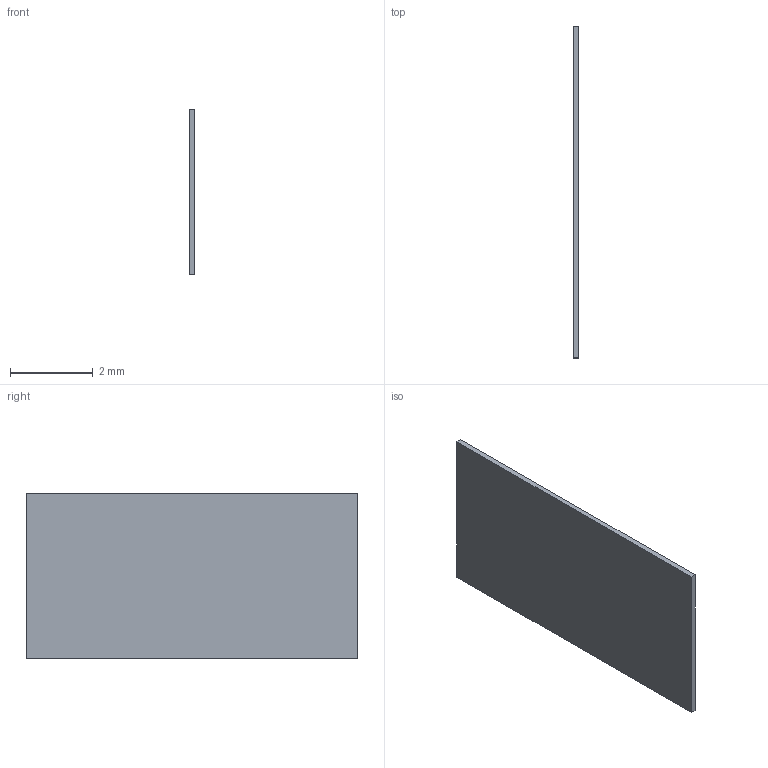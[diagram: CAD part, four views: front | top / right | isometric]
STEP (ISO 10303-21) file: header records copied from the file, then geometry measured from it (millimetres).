
FILE_DESCRIPTION(('Open CASCADE Model'),'2;1');
FILE_NAME('front_grip_PSA_patch_0_13_4','2026-09-08T13:43:18',('Author') ,('Open CASCADE'),'Open CASCADE STEP processor 7.8','build123d', 'Unknown');
FILE_SCHEMA(('AUTOMOTIVE_DESIGN { 1 0 10303 214 1 1 1 1 }'));
Length unit declared in the file: millimetre
Products named in the file (3): =>[0:1:1:2]; front_grip_PSA_patch_0_13_4; SOLID
Assembly tree (2 placements, depth 3):
  =>[0:1:1:2]
    front_grip_PSA_patch_0_13_4
      SOLID
Bounding box: 0.13 x 8 x 4 mm (x, y, z)
Volume: 4.2 mm3; surface area: 67.1 mm2
Topology: 1 solids, 1 shells, 6 faces, 12 edges, 8 vertices
Faces by surface type: plane 6
Entity records: 358 total; most frequent: DIRECTION 54, CARTESIAN_POINT 53, LINE 36, VECTOR 36, ORIENTED_EDGE 24, PCURVE 24, DEFINITIONAL_REPRESENTATION 24, EDGE_CURVE 12
